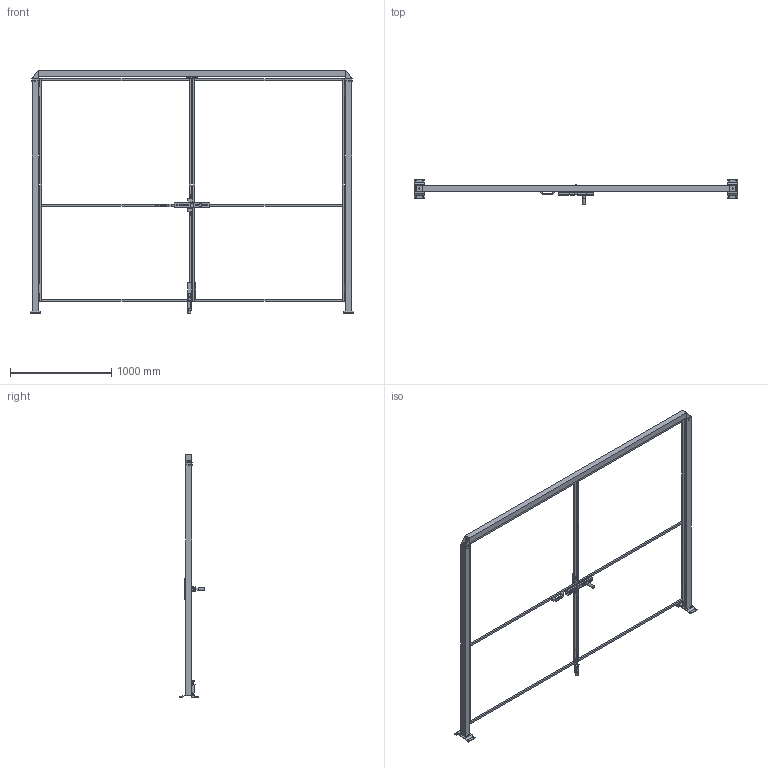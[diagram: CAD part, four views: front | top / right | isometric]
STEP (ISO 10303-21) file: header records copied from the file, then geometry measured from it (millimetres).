
FILE_DESCRIPTION(/* description */ (''),/* implementation_level */ '2;1');
FILE_NAME(/* name */ 'C:\SafeGuarding\ELABORATI\VZOR§DVOUKŘÍDLÉ_2025-02-03-10-09-59.stp',/* time_stamp */ '2025-02-03T10:10:02+01:00',/* author */ ('admin'),/* organization */ (''),/* preprocessor_version */ 'ST-DEVELOPER v18.1',/* originating_system */ 'AutoCAD Mechanical',/* authorisation */ '');
FILE_SCHEMA (('AUTOMOTIVE_DESIGN { 1 0 10303 214 3 1 1 }'));
Length unit declared in the file: millimetre
Products named in the file (5): Product; *U6; DATI_PORTA; P_VFMA.ME60SDU.2320; R_VFPA.REPE20.15002200
Assembly tree (6 placements, depth 2):
  Product
    R_VFPA.REPE20.15002200  x2
    P_VFMA.ME60SDU.2320  x2
    *U6
    DATI_PORTA
Bounding box: 3205 x 255.82 x 2400.5 mm (x, y, z)
Volume: 35779034.6 mm3; surface area: 3836567.4 mm2
Topology: 35 solids, 46 shells, 428 faces, 1425 edges, 1424 vertices
Faces by surface type: plane 384, cylinder 42, cone 2
Full cylindrical faces by diameter (mm): 11 x25, 12 x1, 14 x2, 24 x1, 30 x1
Entity records: 12357 total; most frequent: CARTESIAN_POINT 2622, DIRECTION 1863, ORIENTED_EDGE 1748, EDGE_CURVE 923, LINE 885, VECTOR 885, VERTEX_POINT 651, AXIS2_PLACEMENT_3D 489
